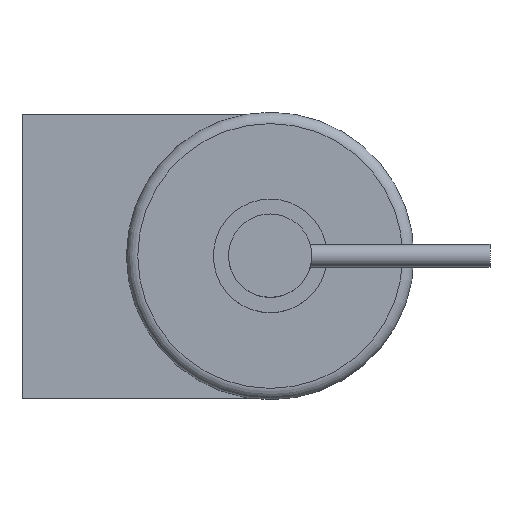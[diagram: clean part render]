
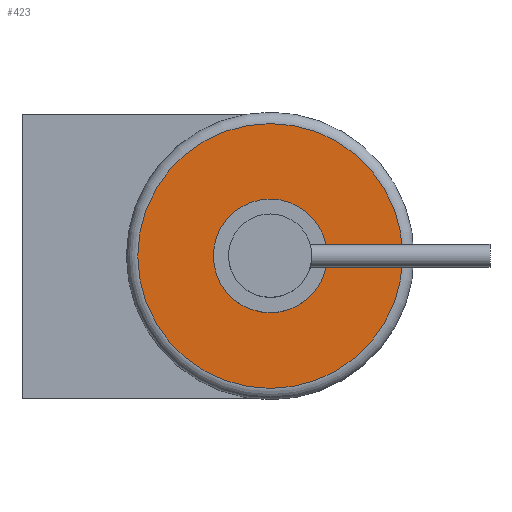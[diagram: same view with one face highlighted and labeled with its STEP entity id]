
A CAD part, top view. The second image highlights one B-rep face of the part: STEP entity #423.
In plain terms, the highlighted planar face has unit normal (0, 0, 1).
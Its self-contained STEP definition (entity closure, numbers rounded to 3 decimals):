
#184=B_SPLINE_CURVE_WITH_KNOTS('',3,(#3976,#3977,#3978,#3979),.UNSPECIFIED.,
.F.,.F.,(4,4),(0.,1.),.UNSPECIFIED.);
#185=B_SPLINE_CURVE_WITH_KNOTS('',3,(#3981,#3982,#3983,#3984),.UNSPECIFIED.,
.F.,.F.,(4,4),(0.,1.),.UNSPECIFIED.);
#320=FACE_BOUND('',#778,.T.);
#423=ADVANCED_FACE('',(#320,#634),#549,.T.);
#549=PLANE('',#2858);
#634=FACE_OUTER_BOUND('',#779,.T.);
#778=EDGE_LOOP('',(#1191,#1192,#1193,#1194));
#779=EDGE_LOOP('',(#1195));
#945=CIRCLE('',#2856,11.5);
#946=CIRCLE('',#2857,34.947);
#1191=ORIENTED_EDGE('',*,*,#2164,.F.);
#1192=ORIENTED_EDGE('',*,*,#2165,.F.);
#1193=ORIENTED_EDGE('',*,*,#2166,.F.);
#1194=ORIENTED_EDGE('',*,*,#2167,.F.);
#1195=ORIENTED_EDGE('',*,*,#2168,.T.);
#1839=VERTEX_POINT('',#3972);
#1840=VERTEX_POINT('',#3973);
#1841=VERTEX_POINT('',#3975);
#1842=VERTEX_POINT('',#3980);
#1843=VERTEX_POINT('',#3986);
#2164=EDGE_CURVE('',#1839,#1840,#2503,.T.);
#2165=EDGE_CURVE('',#1841,#1839,#945,.T.);
#2166=EDGE_CURVE('',#1842,#1841,#184,.T.);
#2167=EDGE_CURVE('',#1840,#1842,#185,.T.);
#2168=EDGE_CURVE('',#1843,#1843,#946,.T.);
#2503=LINE('',#3971,#2664);
#2664=VECTOR('',#3228,1.);
#2856=AXIS2_PLACEMENT_3D('',#3974,#3229,#3230);
#2857=AXIS2_PLACEMENT_3D('',#3985,#3231,#3232);
#2858=AXIS2_PLACEMENT_3D('',#3987,#3233,#3234);
#3228=DIRECTION('',(-0.807,0.591,0.));
#3229=DIRECTION('',(0.,0.,1.));
#3230=DIRECTION('',(1.,0.,0.));
#3231=DIRECTION('',(0.,0.,1.));
#3232=DIRECTION('',(1.,0.,0.));
#3233=DIRECTION('',(0.,0.,1.));
#3234=DIRECTION('',(1.,0.,0.));
#3971=CARTESIAN_POINT('',(-89.992,-352.989,67.));
#3972=CARTESIAN_POINT('',(-99.269,-346.193,67.));
#3973=CARTESIAN_POINT('',(-99.468,-346.048,67.));
#3974=CARTESIAN_POINT('',(-90.,-353.,67.));
#3975=CARTESIAN_POINT('',(-100.266,-347.817,67.));
#3976=CARTESIAN_POINT('',(-101.559,-350.906,67.));
#3977=CARTESIAN_POINT('',(-101.274,-349.811,67.));
#3978=CARTESIAN_POINT('',(-100.841,-348.782,67.));
#3979=CARTESIAN_POINT('',(-100.266,-347.817,67.));
#3980=CARTESIAN_POINT('',(-101.559,-350.906,67.));
#3981=CARTESIAN_POINT('',(-99.468,-346.048,67.));
#3982=CARTESIAN_POINT('',(-100.522,-347.496,67.));
#3983=CARTESIAN_POINT('',(-101.231,-349.146,67.));
#3984=CARTESIAN_POINT('',(-101.559,-350.906,67.));
#3985=CARTESIAN_POINT('',(-90.,-353.,67.));
#3986=CARTESIAN_POINT('',(-55.053,-353.,67.));
#3987=CARTESIAN_POINT('',(-90.,-353.,67.));
